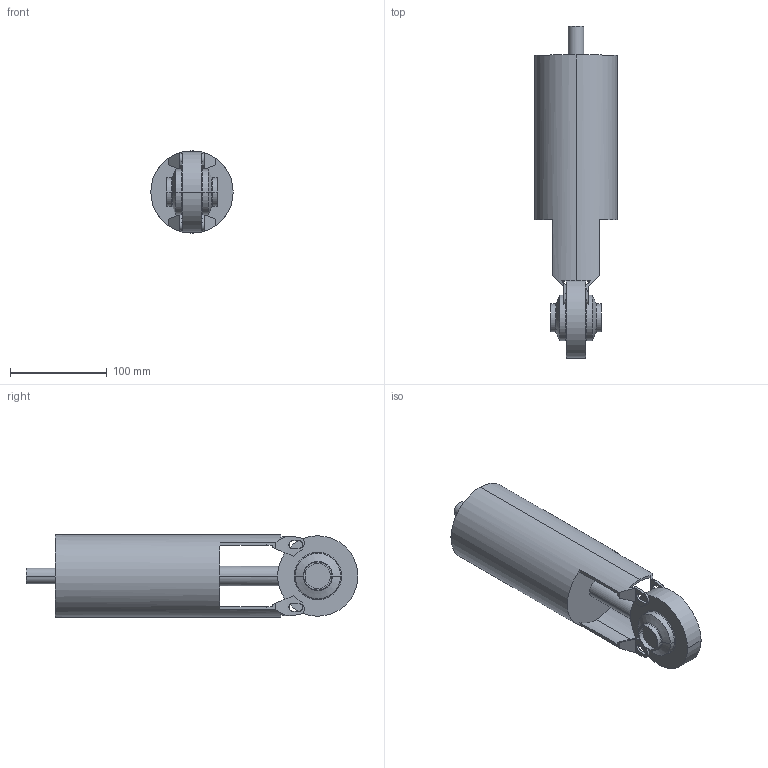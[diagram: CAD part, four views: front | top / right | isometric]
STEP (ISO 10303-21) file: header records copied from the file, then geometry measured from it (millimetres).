
FILE_DESCRIPTION(('OneSpaceDesigner STEP Export'),'2;1');
FILE_NAME('SV1-25-FZ-12S-vereint.stp','2007-04-19T14:32:00',(''),(''),'OneSpace Designer STEP processor for AP214 (Solid Model)','OneSpace Modeling 15.00 06-Feb-2007 (C) CoCreate Software GmbH','');
FILE_SCHEMA(('AUTOMOTIVE_DESIGN { 1 0 10303 214 1 1 1 1 }'));
Length unit declared in the file: millimetre
Products named in the file (3): Luftanschluß; SV1-25-FZ-12S; SV1-25-FZ-12S-vereint
Assembly tree (2 placements, depth 2):
  SV1-25-FZ-12S-vereint
    SV1-25-FZ-12S
    Luftanschluß
Bounding box: 85 x 342.93 x 85 mm (x, y, z)
Volume: 1152264 mm3; surface area: 98587.6 mm2
Topology: 2 solids, 2 shells, 126 faces, 349 edges, 220 vertices
Faces by surface type: plane 74, cylinder 40, torus 8, cone 4
Entity records: 4227 total; most frequent: CARTESIAN_POINT 1163, ORIENTED_EDGE 698, DIRECTION 571, EDGE_CURVE 349, VERTEX_POINT 220, AXIS2_PLACEMENT_3D 194, VECTOR 183, LINE 183
